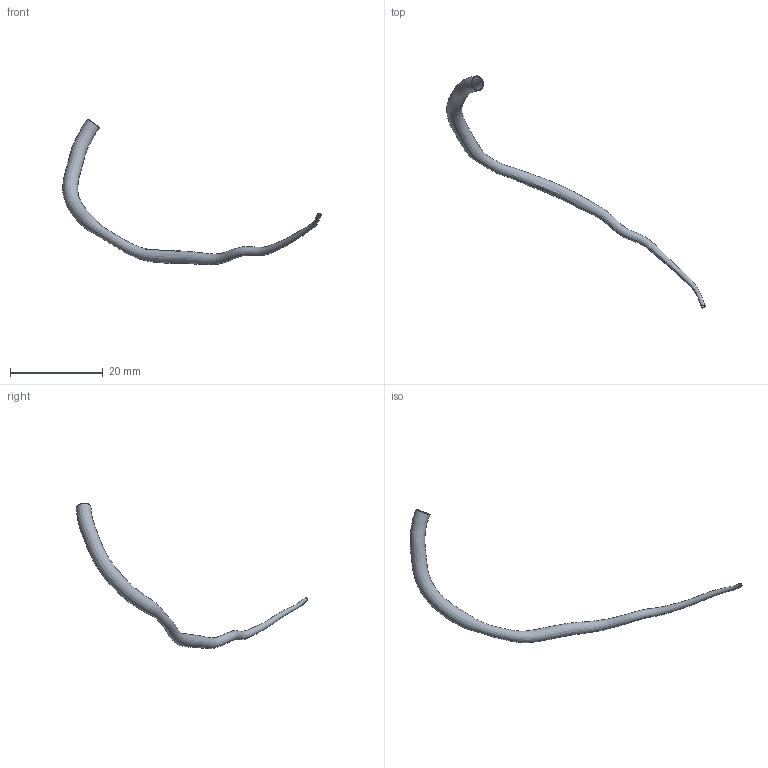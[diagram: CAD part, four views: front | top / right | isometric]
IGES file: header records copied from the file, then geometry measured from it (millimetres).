
Global section: file name: C:\Documents and Settings\Administrator\Desktop\FDA-Pig\Domestic LCA\Pig_000137\lad.seg.es.igs; native system: Rhinoceros ( May 19 2006 ); preprocessor: Trout Lake IGES 012 May 19 2006; date: 111205.184137; units: centimetre
Bounding box: 55.63 x 49.92 x 31.32 mm (x, y, z)
Surface area: 1338.5 mm2 (no closed solid volume)
Topology: 0 solids, 0 shells, 4 faces, 13 edges, 10 vertices
Faces by surface type: bspline 4
